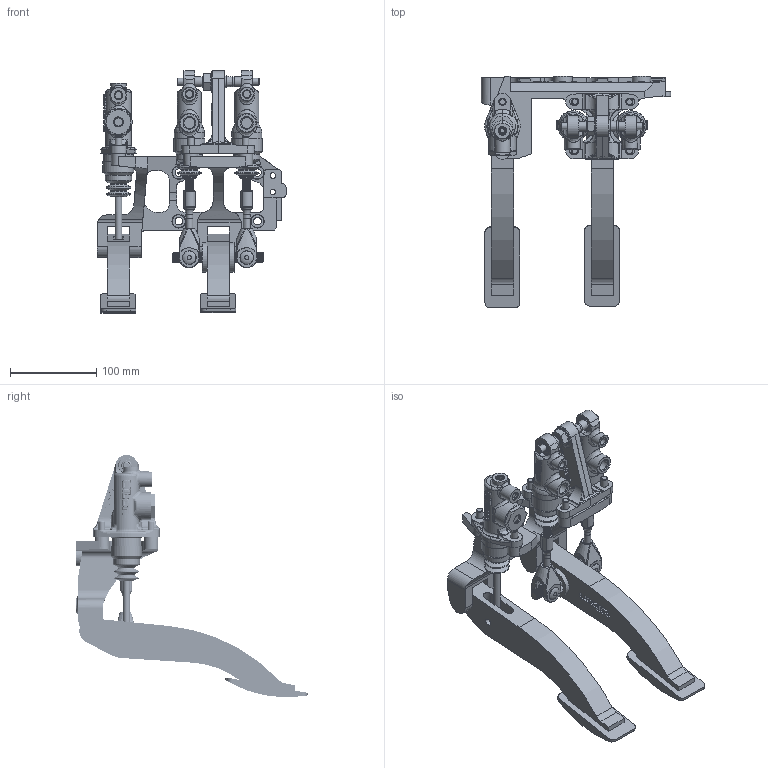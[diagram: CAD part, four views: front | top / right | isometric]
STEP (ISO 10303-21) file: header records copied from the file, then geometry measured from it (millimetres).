
FILE_DESCRIPTION(/* description */ ('Unknown'),/* implementation_level */ '2;1');
FILE_NAME(/* name */ '72-804 WITH BAL BAR',/* time_stamp */ '2019-06-17T06:53:43-07:00',/* author */ ('Unknown'),/* organization */ ('Unknown'),/* preprocessor_version */ 'ST-DEVELOPER v16.7',/* originating_system */ 'DEX',/* authorisation */ $);
FILE_SCHEMA (('AUTOMOTIVE_DESIGN {1 0 10303 214 3 1 1}'));
Products named in the file (11): 72-804 WITH BAL BAR; 72-804, 11-22-16; 6256; 6255; 6254; 6714; 4097; 4098; TILTON 76 SERIES MASTER CYLINDER .625 TO .75 ; TILTON 78-625 MASTER CYLINDER; 6290
Assembly tree (14 placements, depth 3):
  72-804 WITH BAL BAR
    72-804, 11-22-16
    6256
      6255
      6254
    6714
    4097  x2
    4098  x2
    TILTON 76 SERIES MASTER CYLINDER .625 TO .75 
    TILTON 78-625 MASTER CYLINDER  x2
    6290  x2
Bounding box: 220.03 x 269.06 x 281.61 mm (x, y, z)
Volume: 1188455.2 mm3; surface area: 289089.9 mm2
Topology: 15 solids, 20 shells, 2528 faces, 6641 edges, 4279 vertices
Faces by surface type: plane 951, bspline 779, cylinder 554, cone 156, torus 76, sphere 12
Full cylindrical faces by diameter (mm): 1.575 x4, 2.87 x2, 3.967 x1, 3.988 x1, 6.032 x2, 6.528 x2, 6.792 x2, 7.938 x15, 8.026 x2, 8.379 x9, 8.382 x1, 8.636 x2, 8.75 x4, 9.525 x2, 9.738 x1, 10.312 x2, 10.926 x22, 11.176 x2, 11.709 x2, 12.649 x3, 12.7 x5, 12.713 x2, 12.735 x1, 12.761 x4, 13.97 x1, 15.748 x2, 15.799 x2, 15.875 x8, 15.888 x4, 16.51 x6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
Entity records: 98612 total; most frequent: CARTESIAN_POINT 52323, ORIENTED_EDGE 8758, DIRECTION 6505, EDGE_CURVE 4379, VERTEX_POINT 2927, AXIS2_PLACEMENT_3D 2423, FACE_BOUND 2202, EDGE_LOOP 2198
